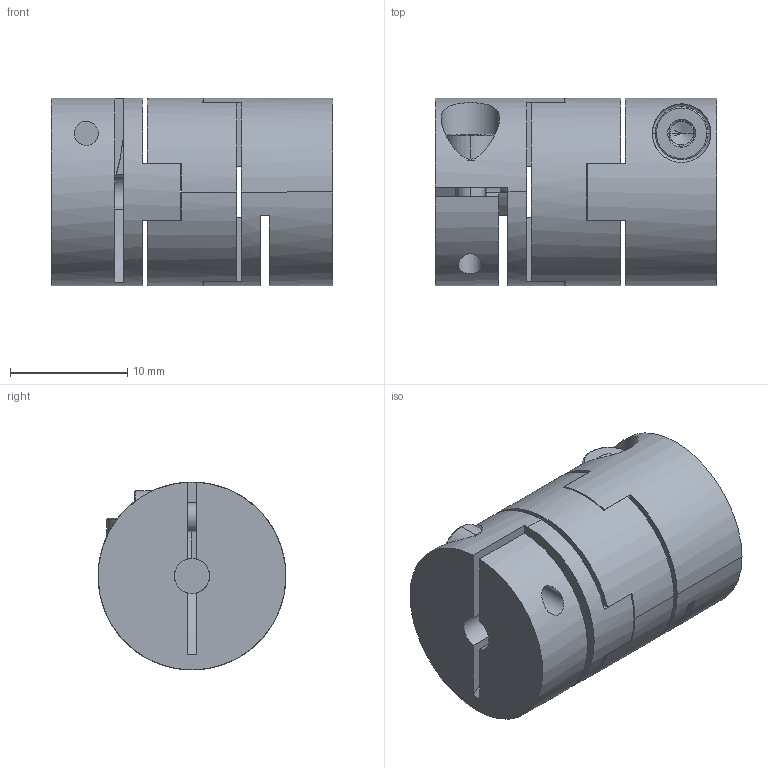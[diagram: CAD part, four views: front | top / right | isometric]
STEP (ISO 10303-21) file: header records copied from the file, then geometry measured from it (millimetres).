
FILE_DESCRIPTION (( 'STEP AP203' ), '1' );
FILE_NAME ('KBO2-16.STEP', '2024-01-10T12:04:38', ( '' ), ( '' ), 'SwSTEP 2.0', 'SolidWorks 2022', '' );
FILE_SCHEMA (( 'CONFIG_CONTROL_DESIGN' ));
Length unit declared in the file: millimetre
Products named in the file (4): KBO2-16; ISO 4762 - M2,5 x 6; OZS 16_011.00000688.500; ONK 16_011.00001055.100
Assembly tree (5 placements, depth 2):
  KBO2-16
    OZS 16_011.00000688.500
    ONK 16_011.00001055.100  x2
    ISO 4762 - M2,5 x 6  x2
Bounding box: 24 x 16 x 16 mm (x, y, z)
Volume: 4018.9 mm3; surface area: 3803 mm2
Topology: 5 solids, 5 shells, 149 faces, 377 edges, 238 vertices
Faces by surface type: plane 80, cylinder 45, torus 12, cone 12
Entity records: 3155 total; most frequent: CARTESIAN_POINT 577, DIRECTION 477, ORIENTED_EDGE 430, EDGE_CURVE 215, AXIS2_PLACEMENT_3D 184, VERTEX_POINT 138, LINE 109, VECTOR 109
